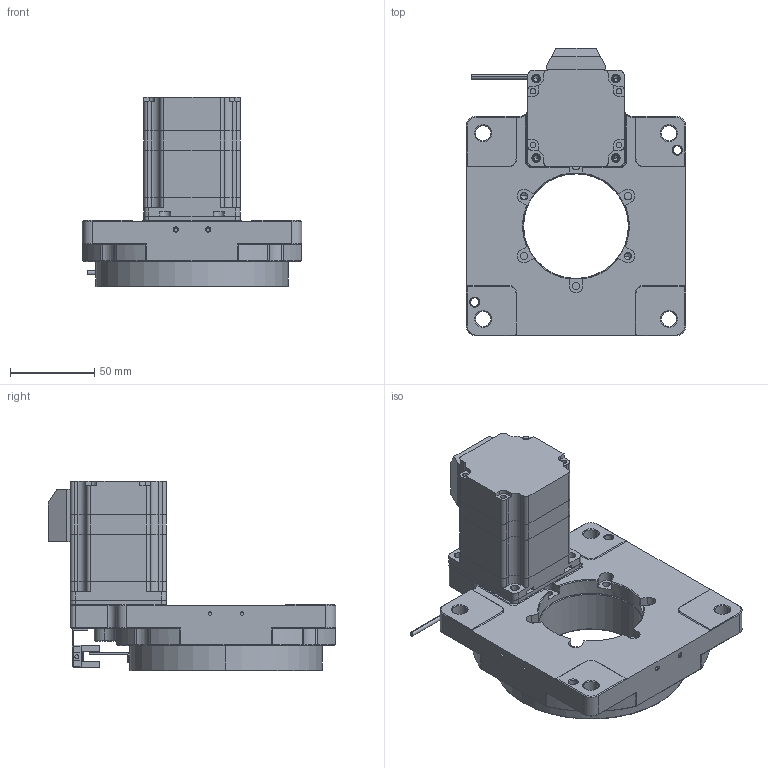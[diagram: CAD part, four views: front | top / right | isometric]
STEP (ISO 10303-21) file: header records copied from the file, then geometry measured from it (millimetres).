
FILE_DESCRIPTION (( 'STEP AP203' ), '1' );
FILE_NAME ('RTN130B-18K(±Õ»·).STEP', '2024-05-21T10:46:14', ( '' ), ( '' ), 'SwSTEP 2.0', 'SolidWorks 2023', '' );
FILE_SCHEMA (( 'CONFIG_CONTROL_DESIGN' ));
Length unit declared in the file: millimetre
Products named in the file (1): RTN130B-18K(闭环)
Bounding box: 130 x 170.3 x 112.5 mm (x, y, z)
Volume: 535908.8 mm3; surface area: 154907.5 mm2
Topology: 12 solids, 16 shells, 1077 faces, 2756 edges, 1727 vertices
Faces by surface type: plane 444, cylinder 358, cone 218, bspline 43, torus 14
Entity records: 36150 total; most frequent: CARTESIAN_POINT 9735, DIRECTION 5568, ORIENTED_EDGE 5400, EDGE_CURVE 2700, AXIS2_PLACEMENT_3D 1973, VERTEX_POINT 1727, LINE 1622, VECTOR 1622
